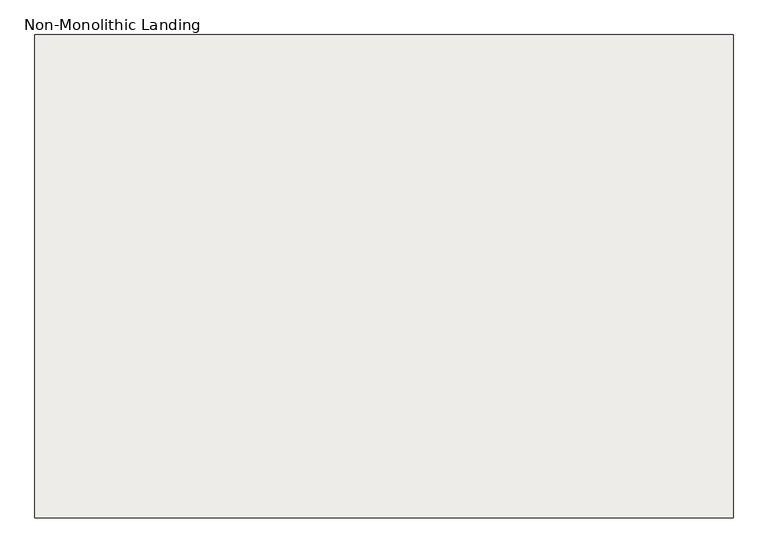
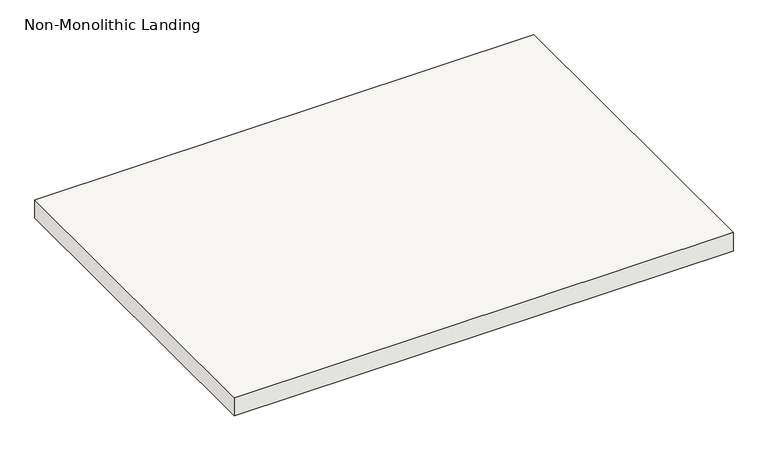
"""IFC4 building model written with IfcOpenShell, lengths in millimetres: slab geometry, Non-Monolithic Landing."""

from ifc_helpers import new_model, si_unit, frame, origin, place, context, project, spatial, polyline, outline, extrude, source, transform, mapped, element, save


def non_monolithic_landing_b3eb6da1(model_context):
    return source(origin(), model_context, "Body", "SweptSolid", [
        extrude(outline(polyline([(16212.6035021, 36930.1361774), (17533.4035021, 36930.1361774), (17533.4035021, 36015.7361774), (16212.6035021, 36015.7361774), (16212.6035021, 36930.1361774)])), frame((0.0, 0.0, 2126.3428571), z_axis=(0.0, 0.0, 1.0), x_axis=(1.0, 0.0, 0.0)), (0.0, 0.0, 1.0), 50.8),
    ])


if __name__ == "__main__":
    model = new_model("IFC4")
    model_context = context("Model", 3, world=origin())
    ifc_project = project(units=[si_unit("LENGTHUNIT", "METRE", prefix="MILLI")], contexts=[model_context])
    site = spatial("IfcSite", under=ifc_project)
    building = spatial("IfcBuilding", under=site)
    placement = place(None, origin())
    non_monolithic_landing_shape = non_monolithic_landing_b3eb6da1(model_context)
    element("IfcSlab", 1, ObjectType="Non-Monolithic Landing", at=placement, inside=building, context=model_context, shape_type="MappedRepresentation", body=[
        mapped(non_monolithic_landing_shape, transform((0.0, 0.0, 0.0), x_axis=(1.0, 0.0, 0.0), y_axis=(0.0, 1.0, 0.0), z_axis=(0.0, 0.0, 1.0))),
    ])
    save(model, "model.ifc")
